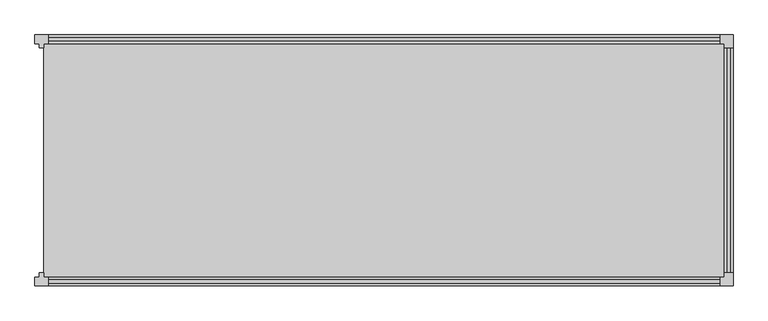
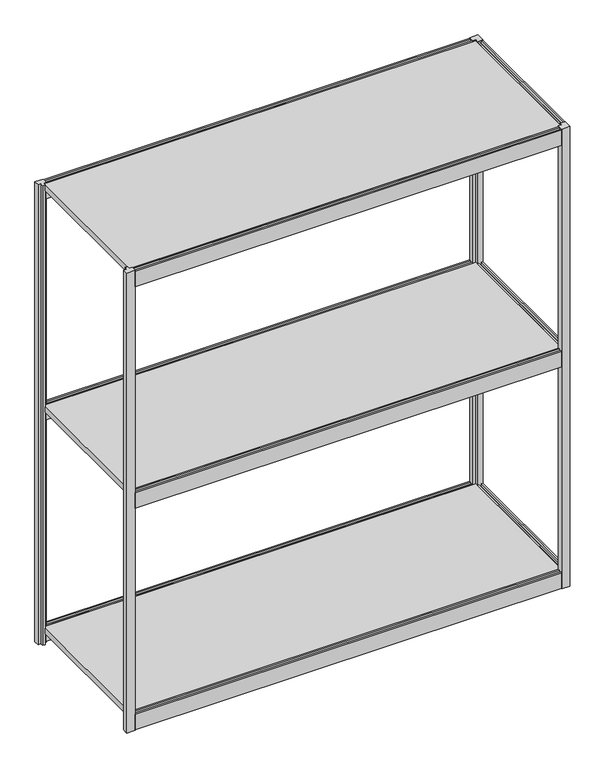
"""IFC4 building model written with IfcOpenShell, lengths in millimetres: furniture geometry, Loft_Wall-Shift-Shelving-Adder : SHIFT-4A-LH."""

from ifc_helpers import new_model, si_unit, frame, origin, origin_with_axes, place, context, project, spatial, polyline, outline, extrude, source, transform, mapped, element, save


def furniture_18f51ebe(model_context):
    return source(origin(), model_context, "Body", "SweptSolid", [
        extrude(outline(polyline([(690.9435, 609.6), (690.9435, 605.5868), (683.2854, 605.5868), (683.2854, 598.3732), (690.9435, 598.3732), (690.9435, 594.36), (645.7315, 594.36), (645.7315, 598.3732), (653.3896, 598.3732), (653.3896, 605.5868), (645.7315, 605.5868), (645.7315, 609.6), (690.9435, 609.6)])), frame((0.0, -196.215, 0.0), z_axis=(0.0, 1.0, 0.0), x_axis=(0.0, 0.0, 1.0)), (0.0, 0.0, 1.0), 392.43),
        extrude(outline(polyline([(-203.835, 645.7315), (-207.8482, 645.7315), (-207.8482, 653.3896), (-215.0618, 653.3896), (-215.0618, 645.7315), (-219.075, 645.7315), (-219.075, 690.9435), (-215.0618, 690.9435), (-215.0618, 683.2854), (-207.8482, 683.2854), (-207.8482, 690.9435), (-203.835, 690.9435), (-203.835, 645.7315)])), frame((-586.74, 0.0, 0.0), z_axis=(1.0, 0.0, 0.0), x_axis=(0.0, 1.0, 0.0)), (0.0, 0.0, 1.0), 1173.48),
        extrude(outline(polyline([(203.835, 645.7315), (203.835, 690.9435), (207.8482, 690.9435), (207.8482, 683.2854), (215.0618, 683.2854), (215.0618, 690.9435), (219.075, 690.9435), (219.075, 645.7315), (215.0618, 645.7315), (215.0618, 653.3896), (207.8482, 653.3896), (207.8482, 645.7315), (203.835, 645.7315)])), frame((-586.74, 0.0, 0.0), z_axis=(1.0, 0.0, 0.0), x_axis=(0.0, 1.0, 0.0)), (0.0, 0.0, 1.0), 1173.48),
        extrude(outline(polyline([(594.36, 203.835), (594.36, -203.835), (-594.36, -203.835), (-594.36, 203.835), (594.36, 203.835)])), frame((0.0, 0.0, 675.5101509), z_axis=(0.0, 0.0, 1.0), x_axis=(1.0, 0.0, 0.0)), (0.0, 0.0, 1.0), 15.4333491),
        extrude(outline(polyline([(1334.4525, 609.6), (1334.4525, 605.5868), (1326.7944, 605.5868), (1326.7944, 598.3732), (1334.4525, 598.3732), (1334.4525, 594.36), (1289.2405, 594.36), (1289.2405, 598.3732), (1296.8986, 598.3732), (1296.8986, 605.5868), (1289.2405, 605.5868), (1289.2405, 609.6), (1334.4525, 609.6)])), frame((0.0, -196.215, 0.0), z_axis=(0.0, 1.0, 0.0), x_axis=(0.0, 0.0, 1.0)), (0.0, 0.0, 1.0), 392.43),
        extrude(outline(polyline([(-203.835, 1289.2405), (-207.8482, 1289.2405), (-207.8482, 1296.8986), (-215.0618, 1296.8986), (-215.0618, 1289.2405), (-219.075, 1289.2405), (-219.075, 1334.4525), (-215.0618, 1334.4525), (-215.0618, 1326.7944), (-207.8482, 1326.7944), (-207.8482, 1334.4525), (-203.835, 1334.4525), (-203.835, 1289.2405)])), frame((-586.74, 0.0, 0.0), z_axis=(1.0, 0.0, 0.0), x_axis=(0.0, 1.0, 0.0)), (0.0, 0.0, 1.0), 1173.48),
        extrude(outline(polyline([(203.835, 1289.2405), (203.835, 1334.4525), (207.8482, 1334.4525), (207.8482, 1326.7944), (215.0618, 1326.7944), (215.0618, 1334.4525), (219.075, 1334.4525), (219.075, 1289.2405), (215.0618, 1289.2405), (215.0618, 1296.8986), (207.8482, 1296.8986), (207.8482, 1289.2405), (203.835, 1289.2405)])), frame((-586.74, 0.0, 0.0), z_axis=(1.0, 0.0, 0.0), x_axis=(0.0, 1.0, 0.0)), (0.0, 0.0, 1.0), 1173.48),
        extrude(outline(polyline([(594.36, 203.835), (594.36, -203.835), (-594.36, -203.835), (-594.36, 203.835), (594.36, 203.835)])), frame((0.0, 0.0, 1319.0191509), z_axis=(0.0, 0.0, 1.0), x_axis=(1.0, 0.0, 0.0)), (0.0, 0.0, 1.0), 15.4333491),
        extrude(outline(polyline([(47.4345, 609.6), (47.4345, 605.5868), (39.7764, 605.5868), (39.7764, 598.3732), (47.4345, 598.3732), (47.4345, 594.36), (2.2225, 594.36), (2.2225, 598.3732), (9.8806, 598.3732), (9.8806, 605.5868), (2.2225, 605.5868), (2.2225, 609.6), (47.4345, 609.6)])), frame((0.0, -196.215, 0.0), z_axis=(0.0, 1.0, 0.0), x_axis=(0.0, 0.0, 1.0)), (0.0, 0.0, 1.0), 392.43),
        extrude(outline(polyline([(-203.835, 2.2225), (-207.8482, 2.2225), (-207.8482, 9.8806), (-215.0618, 9.8806), (-215.0618, 2.2225), (-219.075, 2.2225), (-219.075, 47.4345), (-215.0618, 47.4345), (-215.0618, 39.7764), (-207.8482, 39.7764), (-207.8482, 47.4345), (-203.835, 47.4345), (-203.835, 2.2225)])), frame((-586.74, 0.0, 0.0), z_axis=(1.0, 0.0, 0.0), x_axis=(0.0, 1.0, 0.0)), (0.0, 0.0, 1.0), 1173.48),
        extrude(outline(polyline([(203.835, 2.2225), (203.835, 47.4345), (207.8482, 47.4345), (207.8482, 39.7764), (215.0618, 39.7764), (215.0618, 47.4345), (219.075, 47.4345), (219.075, 2.2225), (215.0618, 2.2225), (215.0618, 9.8806), (207.8482, 9.8806), (207.8482, 2.2225), (203.835, 2.2225)])), frame((-586.74, 0.0, 0.0), z_axis=(1.0, 0.0, 0.0), x_axis=(0.0, 1.0, 0.0)), (0.0, 0.0, 1.0), 1173.48),
        extrude(outline(polyline([(594.36, 203.835), (594.36, -203.835), (-594.36, -203.835), (-594.36, 203.835), (594.36, 203.835)])), frame((0.0, 0.0, 32.0011509), z_axis=(0.0, 0.0, 1.0), x_axis=(1.0, 0.0, 0.0)), (0.0, 0.0, 1.0), 15.4333491),
        extrude(outline(polyline([(-586.74, -203.835), (-586.74, -219.075), (-609.6, -219.075), (-609.6, -203.835), (-601.6625, -203.835), (-601.6625, -196.215), (-594.36, -196.215), (-594.36, -203.835), (-586.74, -203.835)])), origin_with_axes(), (0.0, 0.0, 1.0), 1336.675),
        extrude(outline(polyline([(586.74, -203.835), (594.36, -203.835), (594.36, -196.215), (609.6, -196.215), (609.6, -219.075), (586.74, -219.075), (586.74, -203.835)])), origin_with_axes(), (0.0, 0.0, 1.0), 1336.675),
        extrude(outline(polyline([(-586.74, 203.835), (-594.36, 203.835), (-594.36, 196.215), (-601.6625, 196.215), (-601.6625, 203.835), (-609.6, 203.835), (-609.6, 219.075), (-586.74, 219.075), (-586.74, 203.835)])), origin_with_axes(), (0.0, 0.0, 1.0), 1336.675),
        extrude(outline(polyline([(586.74, 203.835), (586.74, 219.075), (609.6, 219.075), (609.6, 196.215), (594.36, 196.215), (594.36, 203.835), (586.74, 203.835)])), origin_with_axes(), (0.0, 0.0, 1.0), 1336.675),
    ])


if __name__ == "__main__":
    model = new_model("IFC4")
    model_context = context("Model", 3, world=origin())
    ifc_project = project(units=[si_unit("LENGTHUNIT", "METRE", prefix="MILLI")], contexts=[model_context])
    site = spatial("IfcSite", under=ifc_project)
    building = spatial("IfcBuilding", under=site)
    placement = place(None, origin())
    furniture_shape = furniture_18f51ebe(model_context)
    element("IfcFurniture", 1, ObjectType="Loft_Wall-Shift-Shelving-Adder : SHIFT-4A-LH", at=placement, inside=building, context=model_context, shape_type="MappedRepresentation", body=[
        mapped(furniture_shape, transform((0.0, 0.0, 0.0), x_axis=(1.0, 0.0, 0.0), y_axis=(0.0, 1.0, 0.0), z_axis=(0.0, 0.0, 1.0))),
    ])
    save(model, "model.ifc")
